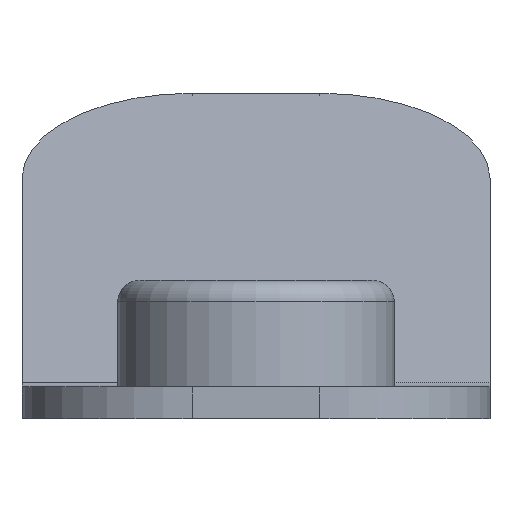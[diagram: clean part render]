
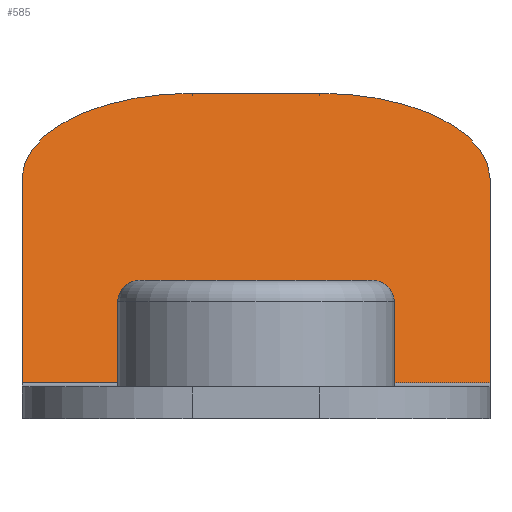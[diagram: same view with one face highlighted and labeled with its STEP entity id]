
A CAD part, front view. The second image highlights one B-rep face of the part: STEP entity #585.
In plain terms, the highlighted planar face has unit normal (0, -0.5, 0.866).
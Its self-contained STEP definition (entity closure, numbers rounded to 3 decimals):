
#4 = CARTESIAN_POINT ( 'NONE',  ( 22., 50.75, 0.201 ) ) ;
#12 = DIRECTION ( 'NONE',  ( 0., -0.5, 0.866 ) ) ;
#15 = ORIENTED_EDGE ( 'NONE', *, *, #187, .F. ) ;
#34 = ORIENTED_EDGE ( 'NONE', *, *, #851, .F. ) ;
#70 = CIRCLE ( 'NONE', #93, 8. ) ;
#93 = AXIS2_PLACEMENT_3D ( 'NONE', #794, #521, #1148 ) ;
#114 = EDGE_CURVE ( 'NONE', #739, #318, #425, .T. ) ;
#120 = LINE ( 'NONE', #398, #684 ) ;
#140 = CARTESIAN_POINT ( 'NONE',  ( 0., 50.75, 0.201 ) ) ;
#170 = AXIS2_PLACEMENT_3D ( 'NONE', #727, #12, #638 ) ;
#185 = DIRECTION ( 'NONE',  ( -1., 0., 0. ) ) ;
#187 = EDGE_CURVE ( 'NONE', #739, #909, #120, .T. ) ;
#202 = LINE ( 'NONE', #558, #1000 ) ;
#225 = CARTESIAN_POINT ( 'NONE',  ( 22., 50.75, 0.201 ) ) ;
#253 = EDGE_CURVE ( 'NONE', #858, #318, #202, .T. ) ;
#257 = ORIENTED_EDGE ( 'NONE', *, *, #114, .T. ) ;
#288 = CARTESIAN_POINT ( 'NONE',  ( 0., 67.374, 9.799 ) ) ;
#289 = LINE ( 'NONE', #4, #881 ) ;
#305 = VECTOR ( 'NONE', #370, 1000. ) ;
#318 = VERTEX_POINT ( 'NONE', #958 ) ;
#323 = EDGE_CURVE ( 'NONE', #858, #1089, #70, .T. ) ;
#370 = DIRECTION ( 'NONE',  ( 0., 0.866, 0.5 ) ) ;
#398 = CARTESIAN_POINT ( 'NONE',  ( 22., 50.402, 0. ) ) ;
#425 = CIRCLE ( 'NONE', #963, 8. ) ;
#427 = DIRECTION ( 'NONE',  ( 0., -0.866, -0.5 ) ) ;
#443 = EDGE_LOOP ( 'NONE', ( #15, #257, #817, #693, #1128, #34 ) ) ;
#470 = EDGE_CURVE ( 'NONE', #699, #1089, #986, .T. ) ;
#480 = DIRECTION ( 'NONE',  ( 0., -0.866, -0.5 ) ) ;
#521 = DIRECTION ( 'NONE',  ( 0., -0.5, 0.866 ) ) ;
#558 = CARTESIAN_POINT ( 'NONE',  ( 22., 74.303, 13.799 ) ) ;
#585 = ADVANCED_FACE ( 'NONE', ( #908 ), #801, .T. ) ;
#638 = DIRECTION ( 'NONE',  ( 0., -0.866, -0.5 ) ) ;
#684 = VECTOR ( 'NONE', #480, 1000. ) ;
#693 = ORIENTED_EDGE ( 'NONE', *, *, #323, .T. ) ;
#699 = VERTEX_POINT ( 'NONE', #140 ) ;
#727 = CARTESIAN_POINT ( 'NONE',  ( 0., 12.902, -21.651 ) ) ;
#739 = VERTEX_POINT ( 'NONE', #957 ) ;
#794 = CARTESIAN_POINT ( 'NONE',  ( 8., 67.374, 9.799 ) ) ;
#801 = PLANE ( 'NONE',  #170 ) ;
#817 = ORIENTED_EDGE ( 'NONE', *, *, #253, .F. ) ;
#826 = DIRECTION ( 'NONE',  ( 1., 0., 0. ) ) ;
#851 = EDGE_CURVE ( 'NONE', #909, #699, #289, .T. ) ;
#858 = VERTEX_POINT ( 'NONE', #877 ) ;
#868 = DIRECTION ( 'NONE',  ( 0., -0.5, 0.866 ) ) ;
#877 = CARTESIAN_POINT ( 'NONE',  ( 8., 74.303, 13.799 ) ) ;
#881 = VECTOR ( 'NONE', #185, 1000. ) ;
#898 = CARTESIAN_POINT ( 'NONE',  ( 0., 74.303, 13.799 ) ) ;
#908 = FACE_OUTER_BOUND ( 'NONE', #443, .T. ) ;
#909 = VERTEX_POINT ( 'NONE', #225 ) ;
#957 = CARTESIAN_POINT ( 'NONE',  ( 22., 67.374, 9.799 ) ) ;
#958 = CARTESIAN_POINT ( 'NONE',  ( 14., 74.303, 13.799 ) ) ;
#963 = AXIS2_PLACEMENT_3D ( 'NONE', #988, #868, #427 ) ;
#986 = LINE ( 'NONE', #898, #305 ) ;
#988 = CARTESIAN_POINT ( 'NONE',  ( 14., 67.374, 9.799 ) ) ;
#1000 = VECTOR ( 'NONE', #826, 1000. ) ;
#1089 = VERTEX_POINT ( 'NONE', #288 ) ;
#1128 = ORIENTED_EDGE ( 'NONE', *, *, #470, .F. ) ;
#1148 = DIRECTION ( 'NONE',  ( 0., -0.866, -0.5 ) ) ;
